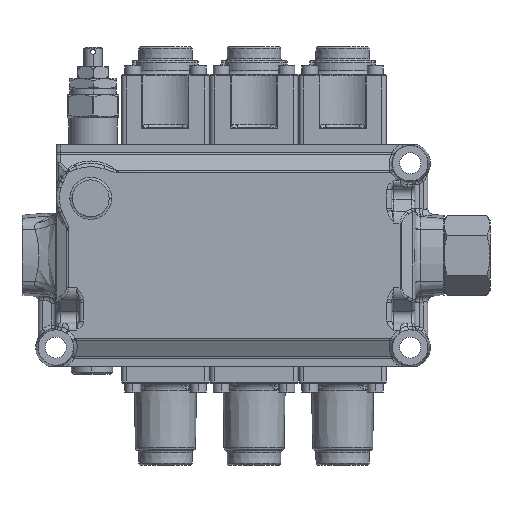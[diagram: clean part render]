
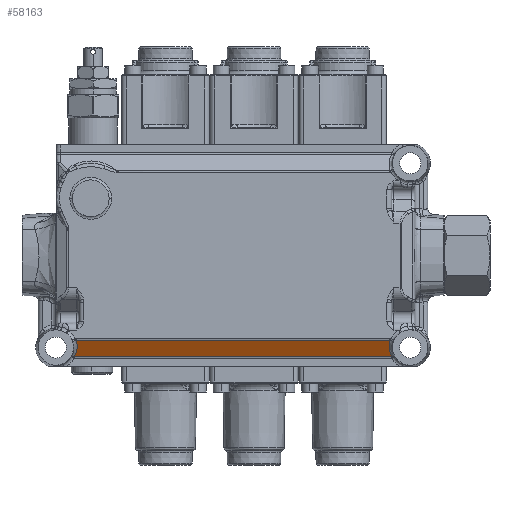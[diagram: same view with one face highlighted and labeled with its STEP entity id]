
A CAD part, front view. The second image highlights one B-rep face of the part: STEP entity #58163.
In plain terms, the highlighted planar face has unit normal (0, -0.866, -0.5) as drawn and (-0.5, -0.866, 0) by its records, which use the part's own axes.
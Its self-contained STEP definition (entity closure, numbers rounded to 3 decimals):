
#313 = FACE_OUTER_BOUND ( 'NONE', #21527, .T. ) ;
#13074 = VERTEX_POINT ( 'NONE', #20179 ) ;
#15494 = CARTESIAN_POINT ( 'NONE',  ( -38.757, -22.408, -95.525 ) ) ;
#16119 = VERTEX_POINT ( 'NONE', #70612 ) ;
#20179 = CARTESIAN_POINT ( 'NONE',  ( -43.446, -19.701, -97.036 ) ) ;
#21527 = EDGE_LOOP ( 'NONE', ( #26084, #68543, #65859, #73211 ) ) ;
#21860 = CARTESIAN_POINT ( 'NONE',  ( -41.255, -20.966, 37.804 ) ) ;
#24923 = CARTESIAN_POINT ( 'NONE',  ( -36., -24., -194.704 ) ) ;
#25071 = DIRECTION ( 'NONE',  ( 0., 0., -1. ) ) ;
#26084 = ORIENTED_EDGE ( 'NONE', *, *, #38000, .T. ) ;
#27789 = CARTESIAN_POINT ( 'NONE',  ( -36.348, -23.799, 38.245 ) ) ;
#27908 = CARTESIAN_POINT ( 'NONE',  ( -36.348, -23.799, 38.245 ) ) ;
#29217 = VECTOR ( 'NONE', #40545, 1000. ) ;
#34746 = CARTESIAN_POINT ( 'NONE',  ( -38.757, -22.408, 37.525 ) ) ;
#37006 = VERTEX_POINT ( 'NONE', #27789 ) ;
#37176 = LINE ( 'NONE', #50841, #61465 ) ;
#37450 = EDGE_CURVE ( 'NONE', #16119, #37006, #41343, .T. ) ;
#38000 = EDGE_CURVE ( 'NONE', #51510, #13074, #37176, .T. ) ;
#40545 = DIRECTION ( 'NONE',  ( 0., 0., 1. ) ) ;
#41343 = LINE ( 'NONE', #64310, #29217 ) ;
#45525 =( BOUNDED_CURVE ( )  B_SPLINE_CURVE ( 3, ( #27908, #34746, #21860, #59304 ),
 .UNSPECIFIED., .F., .T. ) 
 B_SPLINE_CURVE_WITH_KNOTS ( ( 4, 4 ),
 ( 4.422, 5.225 ),
 .UNSPECIFIED. ) 
 CURVE ( )  GEOMETRIC_REPRESENTATION_ITEM ( )  RATIONAL_B_SPLINE_CURVE ( ( 1., 0.947, 0.947, 1. ) ) 
 REPRESENTATION_ITEM ( '' )  );
#49516 = AXIS2_PLACEMENT_3D ( 'NONE', #24923, #60396, #66834 ) ;
#50841 = CARTESIAN_POINT ( 'NONE',  ( -43.446, -19.701, -96.812 ) ) ;
#51510 = VERTEX_POINT ( 'NONE', #78809 ) ;
#52977 = CARTESIAN_POINT ( 'NONE',  ( -41.255, -20.966, -95.804 ) ) ;
#53975 = PLANE ( 'NONE',  #49516 ) ;
#56423 = EDGE_CURVE ( 'NONE', #13074, #16119, #57268, .T. ) ;
#57268 =( BOUNDED_CURVE ( )  B_SPLINE_CURVE ( 3, ( #58994, #52977, #15494, #65835 ),
 .UNSPECIFIED., .F., .T. ) 
 B_SPLINE_CURVE_WITH_KNOTS ( ( 4, 4 ),
 ( 1.058, 1.861 ),
 .UNSPECIFIED. ) 
 CURVE ( )  GEOMETRIC_REPRESENTATION_ITEM ( )  RATIONAL_B_SPLINE_CURVE ( ( 1., 0.947, 0.947, 1. ) ) 
 REPRESENTATION_ITEM ( '' )  );
#58163 = ADVANCED_FACE ( 'NONE', ( #313 ), #53975, .T. ) ;
#58994 = CARTESIAN_POINT ( 'NONE',  ( -43.446, -19.701, -97.036 ) ) ;
#59304 = CARTESIAN_POINT ( 'NONE',  ( -43.446, -19.701, 39.036 ) ) ;
#60396 = DIRECTION ( 'NONE',  ( -0.5, -0.866, 0. ) ) ;
#61465 = VECTOR ( 'NONE', #25071, 1000. ) ;
#64310 = CARTESIAN_POINT ( 'NONE',  ( -36.348, -23.799, -194.704 ) ) ;
#65835 = CARTESIAN_POINT ( 'NONE',  ( -36.348, -23.799, -96.245 ) ) ;
#65859 = ORIENTED_EDGE ( 'NONE', *, *, #37450, .T. ) ;
#66834 = DIRECTION ( 'NONE',  ( 0.866, -0.5, 0. ) ) ;
#68543 = ORIENTED_EDGE ( 'NONE', *, *, #56423, .T. ) ;
#70612 = CARTESIAN_POINT ( 'NONE',  ( -36.348, -23.799, -96.245 ) ) ;
#71487 = EDGE_CURVE ( 'NONE', #37006, #51510, #45525, .T. ) ;
#73211 = ORIENTED_EDGE ( 'NONE', *, *, #71487, .T. ) ;
#78809 = CARTESIAN_POINT ( 'NONE',  ( -43.446, -19.701, 39.036 ) ) ;
